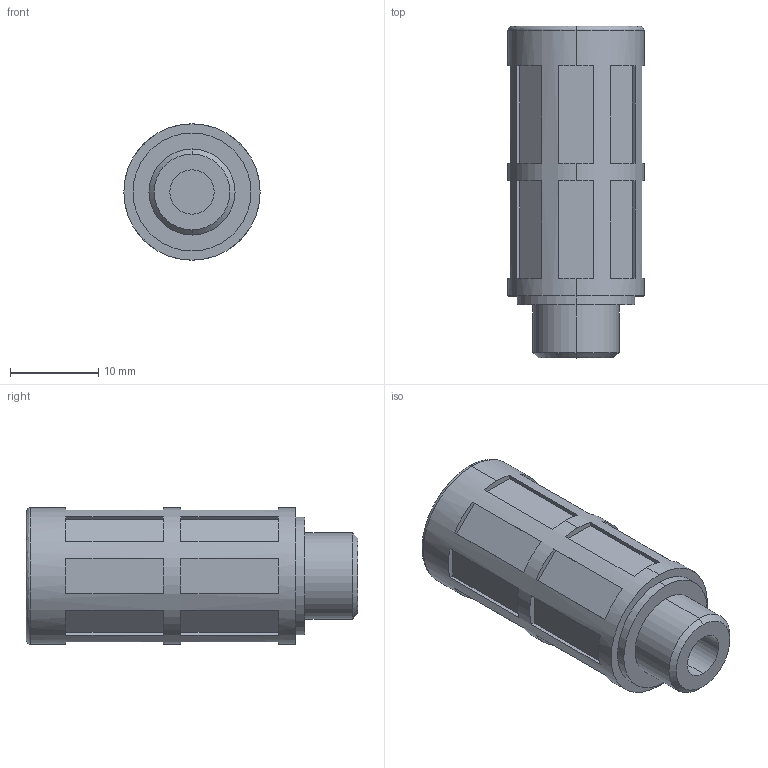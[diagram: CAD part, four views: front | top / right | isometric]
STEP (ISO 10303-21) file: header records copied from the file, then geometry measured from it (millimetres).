
FILE_DESCRIPTION (( 'STEP AP203' ), '1' );
FILE_NAME ('PSU-06OG.STEP', '2023-05-23T07:38:30', ( '' ), ( '' ), 'SwSTEP 2.0', 'SolidWorks 2017', '' );
FILE_SCHEMA (( 'CONFIG_CONTROL_DESIGN' ));
Length unit declared in the file: millimetre
Products named in the file (1): PSU-06OG
Bounding box: 15.4 x 37.5 x 15.4 mm (x, y, z)
Volume: 5178.1 mm3; surface area: 2794.3 mm2
Topology: 1 solids, 1 shells, 103 faces, 244 edges, 156 vertices
Faces by surface type: plane 91, cylinder 8, bspline 2, cone 2
Entity records: 3041 total; most frequent: CARTESIAN_POINT 540, DIRECTION 510, ORIENTED_EDGE 488, EDGE_CURVE 244, VECTOR 178, LINE 178, AXIS2_PLACEMENT_3D 166, VERTEX_POINT 156
